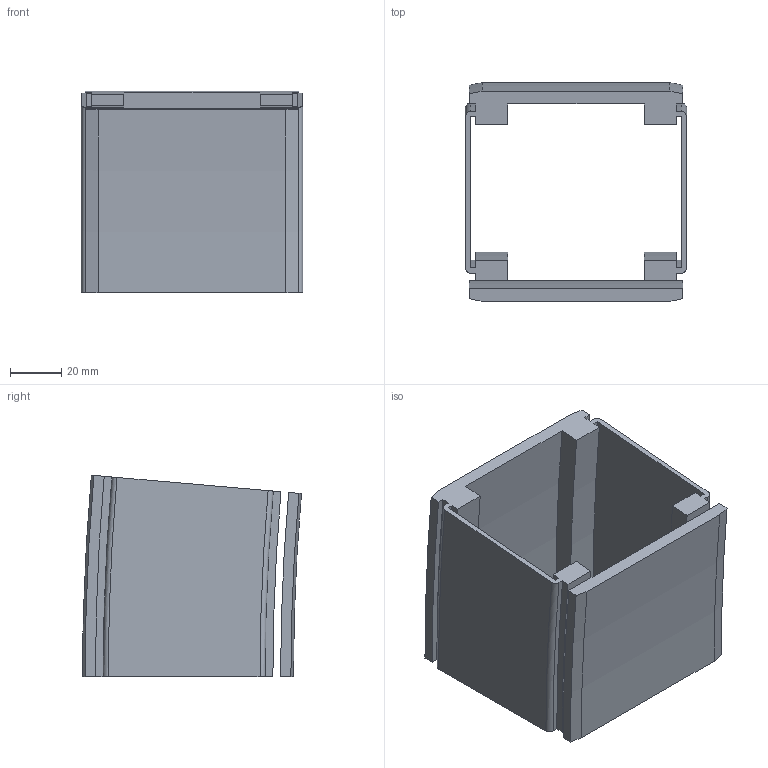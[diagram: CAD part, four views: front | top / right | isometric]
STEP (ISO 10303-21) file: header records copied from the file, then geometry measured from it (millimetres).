
FILE_DESCRIPTION((''),'2;1');
FILE_NAME('C:\Vault Klient\Projekt\Koncept konstruktion\Serie 530 Balk\530-5650_DOWN.stp','2010-11-23T13:20:06',('Mathias'),(''),'Autodesk Inventor 2011','Autodesk Inventor 2011','');
FILE_SCHEMA(('AUTOMOTIVE_DESIGN { 1 0 10303 214 1 1 1 1 }'));
Length unit declared in the file: millimetre
Products named in the file (1): 530-5650_DOWN
Bounding box: 86 x 85.11 x 78.4 mm (x, y, z)
Volume: 111305 mm3; surface area: 56739 mm2
Topology: 2 solids, 2 shells, 87 faces, 234 edges, 156 vertices
Faces by surface type: plane 40, cylinder 25, bspline 14, cone 4, torus 4
Entity records: 3221 total; most frequent: CARTESIAN_POINT 983, ORIENTED_EDGE 468, DIRECTION 428, EDGE_CURVE 234, VERTEX_POINT 156, AXIS2_PLACEMENT_3D 148, VECTOR 132, LINE 132
